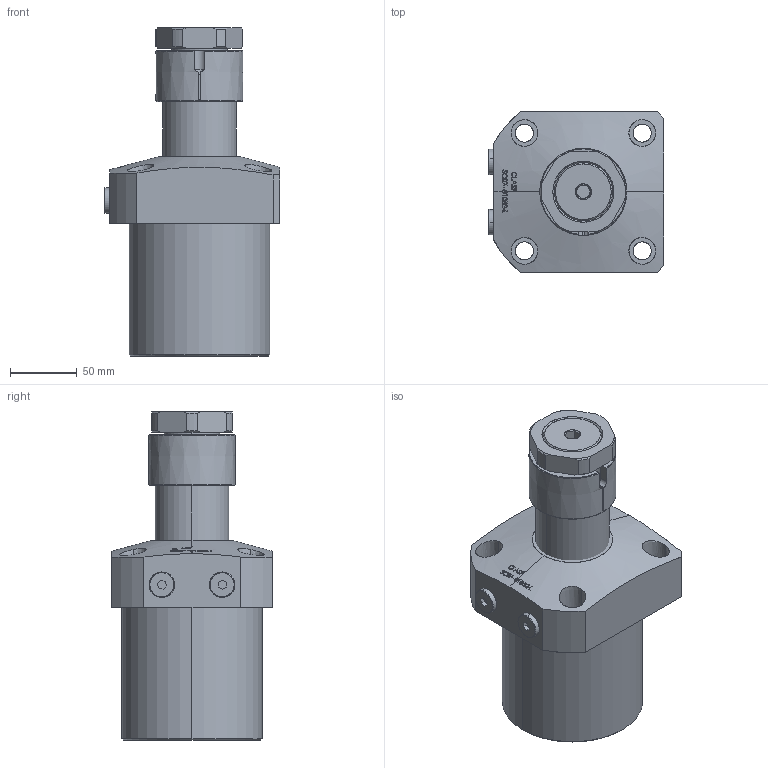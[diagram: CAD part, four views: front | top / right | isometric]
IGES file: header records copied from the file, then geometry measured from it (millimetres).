
Start section: SolidWorks IGES file using analytic representation for surfaces
Global section: file name: D:\karuppas\Clasp\3D model\SWING CYLINDER\Top Mounting swing cylinder\SC07-01052-L\SC07-01052-L.IGS; native system: SolidWorks 2017; preprocessor: SolidWorks 2017; author: pc; date: 220705.232645; units: millimetre
Bounding box: 131 x 120 x 245 mm (x, y, z)
Surface area: 139876.6 mm2 (no closed solid volume)
Topology: 0 solids, 0 shells, 373 faces, 6754 edges, 6754 vertices
Faces by surface type: bspline 261, revolution 112
